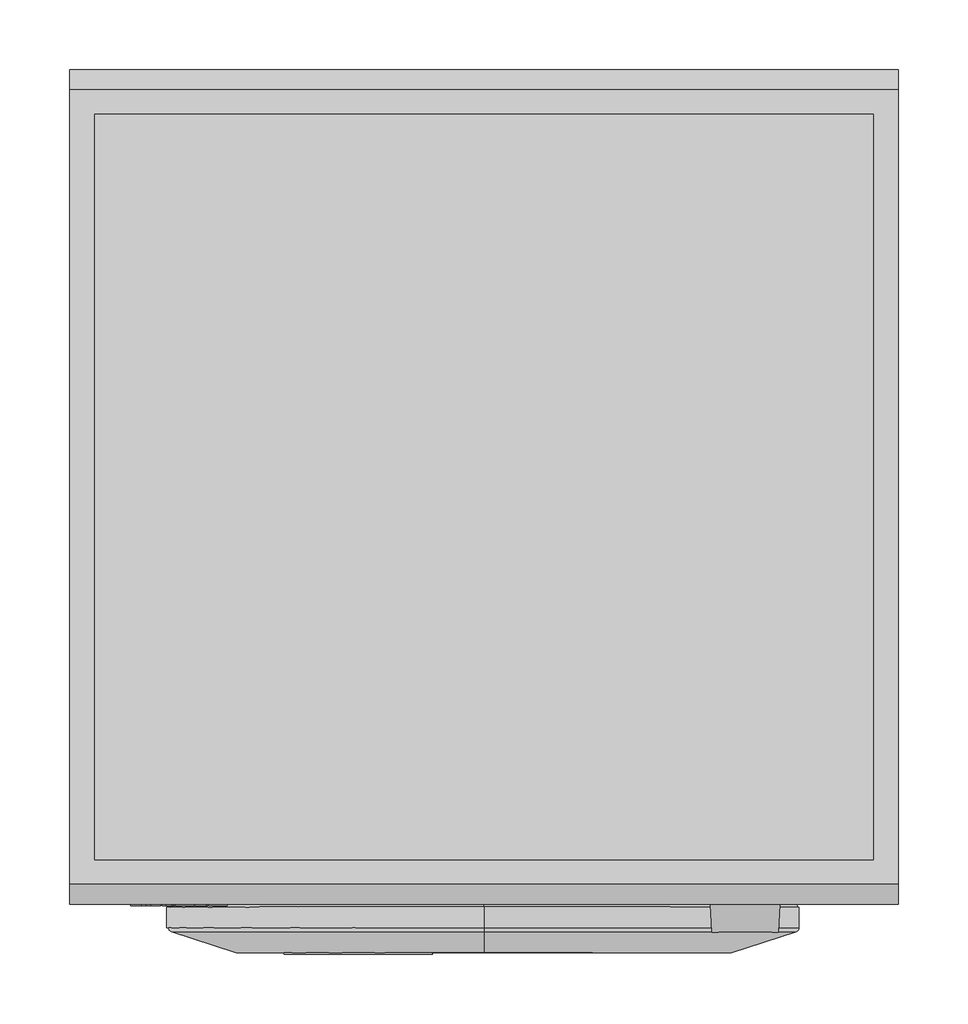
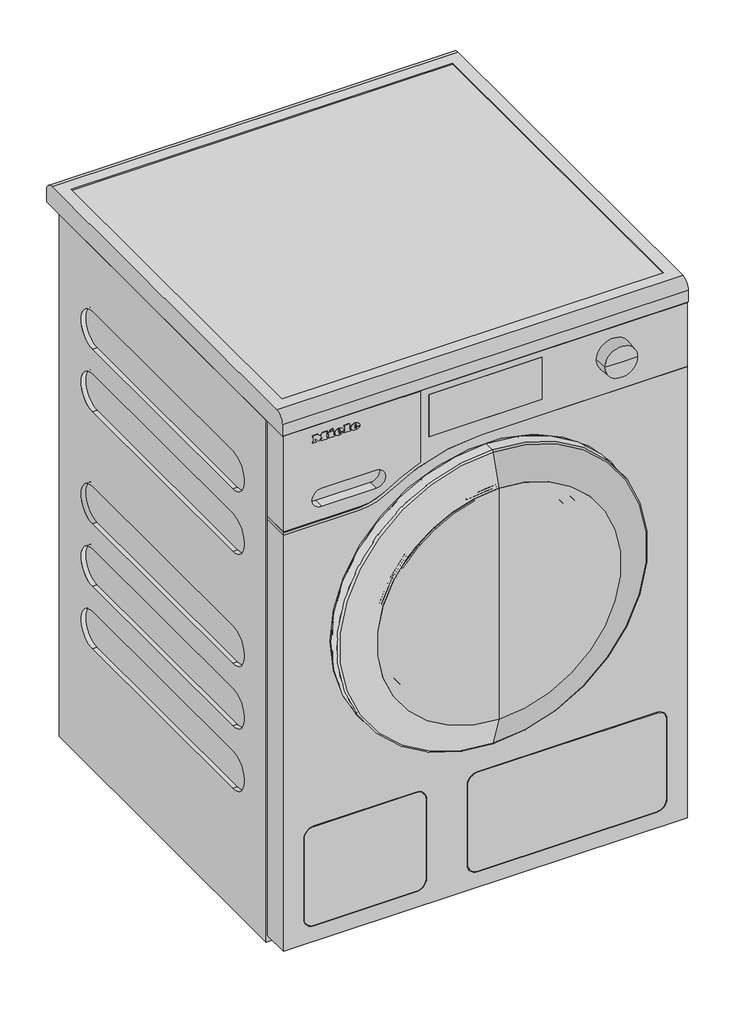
# Not in any storey: 1 proxy.
"""IFC4 building model written with IfcOpenShell, lengths in millimetres."""

from ifc_helpers import new_model, si_unit, origin, place, context, project, spatial, transform, mapped, element, save
from components import specialty_equipment_decaa100, specialty_equipment_07e524df

model = new_model("IFC4")

# Units and contexts
model_context = context("Model", 3, world=origin())
ifc_project = project(units=[si_unit("LENGTHUNIT", "METRE", prefix="MILLI")], contexts=[model_context])

# Site, building
site = spatial("IfcSite", under=ifc_project)
building = spatial("IfcBuilding", under=site)

# Proxy
placement = place(None, origin())
specialty_equipment_shape = specialty_equipment_decaa100(model_context)
specialty_equipment_2_shape = specialty_equipment_07e524df(model_context)
element("IfcBuildingElementProxy", 1, Name="12424340_TR_WEB685WCS_LW : 11EB6851_TR_12424340_WEB685WCS_LW", ObjectType="12424340_TR_WEB685WCS_LW : 11EB6851_TR_12424340_WEB685WCS_LW", at=placement, inside=building, context=model_context, shape_type="MappedRepresentation", body=[
    mapped(specialty_equipment_shape, transform((0.0, 0.0, 0.0), x_axis=(1.0, 0.0, 0.0), y_axis=(0.0, 1.0, 0.0), z_axis=(0.0, 0.0, 1.0))),
    mapped(specialty_equipment_2_shape, transform((0.0, 0.0, 0.0), x_axis=(1.0, 0.0, 0.0), y_axis=(0.0, 1.0, 0.0), z_axis=(0.0, 0.0, 1.0))),
])

save(model, "model.ifc")
